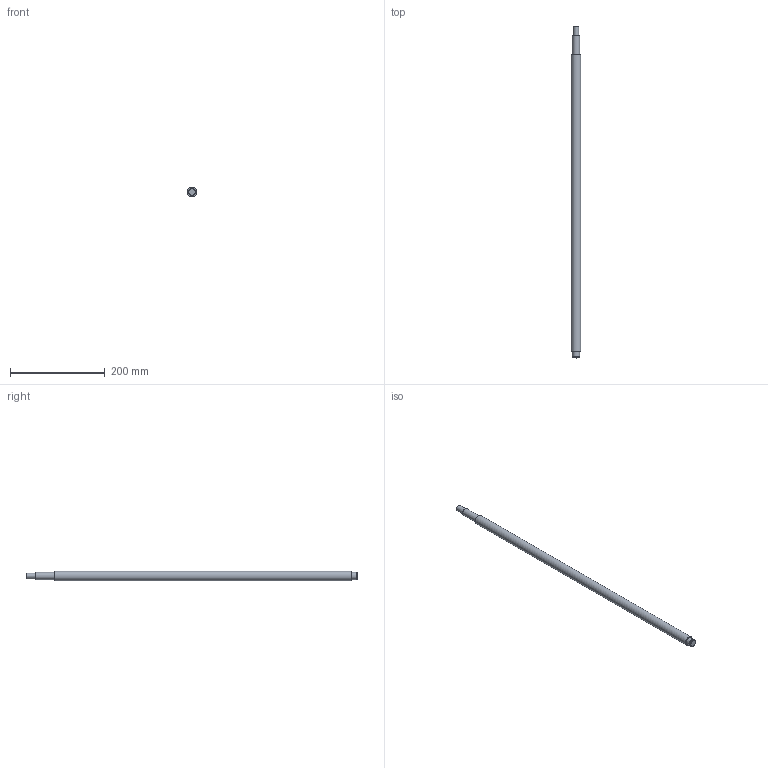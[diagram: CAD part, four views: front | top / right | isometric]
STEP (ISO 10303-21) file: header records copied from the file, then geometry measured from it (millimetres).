
FILE_DESCRIPTION(/* description */ (''),/* implementation_level */ '2;1');
FILE_NAME(/* name */ 'C:\Users\David\Desktop\stepFiles\Profilfuehrung\KUS2005x700.stp',/* time_stamp */ '2018-06-24T15:12:09+02:00',/* author */ ('David'),/* organization */ (''),/* preprocessor_version */ 'ST-DEVELOPER v17',/* originating_system */ 'Autodesk Inventor 2019',/* authorisation */ '');
FILE_SCHEMA (('AUTOMOTIVE_DESIGN { 1 0 10303 214 3 1 1 }'));
Length unit declared in the file: millimetre
Products named in the file (1): SFU2005xvaiabel
Bounding box: 20 x 700 x 20 mm (x, y, z)
Volume: 208576.8 mm3; surface area: 43279.6 mm2
Topology: 1 solids, 1 shells, 15 faces, 34 edges, 26 vertices
Faces by surface type: plane 7, cylinder 6, cone 2
Full cylindrical faces by diameter (mm): 12 x1, 14.3 x1, 15 x3, 20 x1
Entity records: 493 total; most frequent: DIRECTION 92, CARTESIAN_POINT 76, ORIENTED_EDGE 68, AXIS2_PLACEMENT_3D 42, EDGE_CURVE 34, CIRCLE 26, VERTEX_POINT 26, EDGE_LOOP 20
